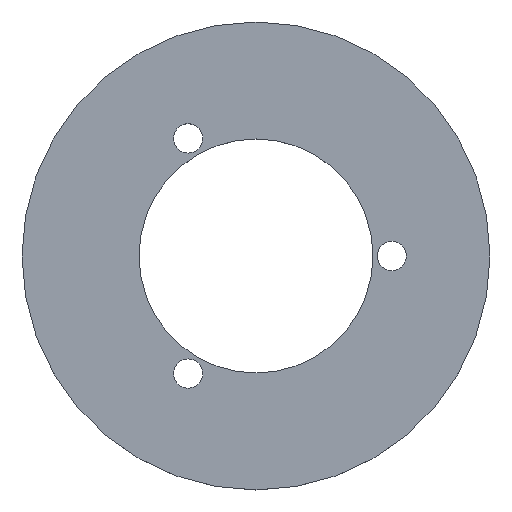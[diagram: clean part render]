
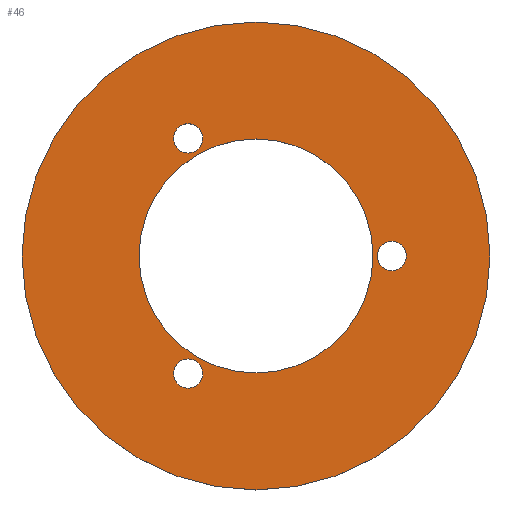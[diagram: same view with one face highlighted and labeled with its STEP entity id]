
A CAD part, top view. The second image highlights one B-rep face of the part: STEP entity #46.
In plain terms, the highlighted planar face has unit normal (0, 0, 1).
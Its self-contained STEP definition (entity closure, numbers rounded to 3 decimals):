
#42=PLANE('',#156);
#46=ADVANCED_FACE('',(#60,#61,#62,#63,#64),#42,.T.);
#60=FACE_BOUND('',#80,.T.);
#61=FACE_BOUND('',#81,.T.);
#62=FACE_BOUND('',#82,.T.);
#63=FACE_BOUND('',#83,.T.);
#64=FACE_BOUND('',#84,.T.);
#80=EDGE_LOOP('',(#100));
#81=EDGE_LOOP('',(#101));
#82=EDGE_LOOP('',(#102));
#83=EDGE_LOOP('',(#103));
#84=EDGE_LOOP('',(#104));
#100=ORIENTED_EDGE('',*,*,#130,.T.);
#101=ORIENTED_EDGE('',*,*,#131,.T.);
#102=ORIENTED_EDGE('',*,*,#132,.T.);
#103=ORIENTED_EDGE('',*,*,#126,.T.);
#104=ORIENTED_EDGE('',*,*,#128,.F.);
#116=VERTEX_POINT('',#202);
#118=VERTEX_POINT('',#207);
#120=VERTEX_POINT('',#212);
#121=VERTEX_POINT('',#214);
#122=VERTEX_POINT('',#216);
#126=EDGE_CURVE('',#116,#116,#136,.T.);
#128=EDGE_CURVE('',#118,#118,#138,.T.);
#130=EDGE_CURVE('',#120,#120,#140,.T.);
#131=EDGE_CURVE('',#121,#121,#141,.T.);
#132=EDGE_CURVE('',#122,#122,#142,.T.);
#136=CIRCLE('',#147,56.);
#138=CIRCLE('',#150,28.);
#140=CIRCLE('',#153,3.5);
#141=CIRCLE('',#154,3.5);
#142=CIRCLE('',#155,3.5);
#147=AXIS2_PLACEMENT_3D('',#201,#166,#167);
#150=AXIS2_PLACEMENT_3D('',#206,#172,#173);
#153=AXIS2_PLACEMENT_3D('',#211,#178,#179);
#154=AXIS2_PLACEMENT_3D('',#213,#180,#181);
#155=AXIS2_PLACEMENT_3D('',#215,#182,#183);
#156=AXIS2_PLACEMENT_3D('',#217,#184,#185);
#166=DIRECTION('',(0.,0.,1.));
#167=DIRECTION('',(1.,0.,0.));
#172=DIRECTION('',(0.,0.,1.));
#173=DIRECTION('',(1.,0.,0.));
#178=DIRECTION('',(0.,0.,-1.));
#179=DIRECTION('',(-1.,0.,0.));
#180=DIRECTION('',(0.,0.,-1.));
#181=DIRECTION('',(-1.,0.,0.));
#182=DIRECTION('',(0.,0.,-1.));
#183=DIRECTION('',(-1.,0.,0.));
#184=DIRECTION('',(0.,0.,1.));
#185=DIRECTION('',(1.,0.,0.));
#201=CARTESIAN_POINT('',(0.,0.,4.));
#202=CARTESIAN_POINT('',(56.,0.,4.));
#206=CARTESIAN_POINT('',(0.,0.,4.));
#207=CARTESIAN_POINT('',(28.,0.,4.));
#211=CARTESIAN_POINT('',(-16.25,-28.146,4.));
#212=CARTESIAN_POINT('',(-19.75,-28.146,4.));
#213=CARTESIAN_POINT('',(-16.25,28.146,4.));
#214=CARTESIAN_POINT('',(-19.75,28.146,4.));
#215=CARTESIAN_POINT('',(32.5,0.,4.));
#216=CARTESIAN_POINT('',(29.,0.,4.));
#217=CARTESIAN_POINT('',(0.,0.,4.));
